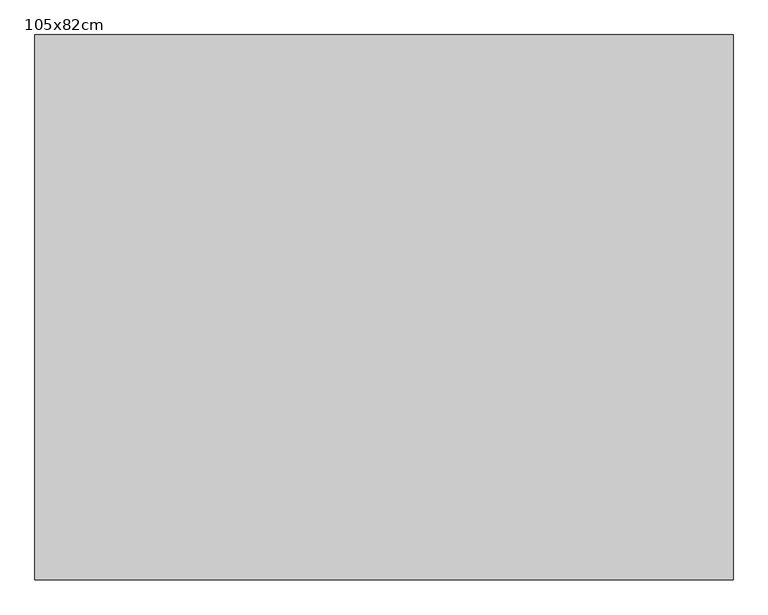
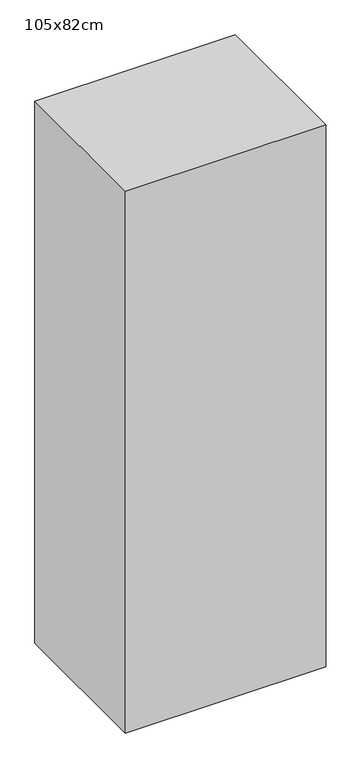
"""IFC4 building model written with IfcOpenShell, lengths in millimetres: column geometry, 混凝土柱-矩形 : 105x82cm."""

from ifc_helpers import new_model, si_unit, origin, origin_with_axes, place, context, project, spatial, polyline, outline, extrude, source, transform, mapped, element, save


def column_105x82cm_b301bd04(model_context):
    return source(origin(), model_context, "Body", "SweptSolid", [
        extrude(outline(polyline([(525.0, 410.0), (525.0, -410.0), (-525.0, -410.0), (-525.0, 410.0), (525.0, 410.0)])), origin_with_axes(), (0.0, 0.0, 1.0), 3000.0),
    ])


if __name__ == "__main__":
    model = new_model("IFC4")
    model_context = context("Model", 3, world=origin())
    ifc_project = project(units=[si_unit("LENGTHUNIT", "METRE", prefix="MILLI")], contexts=[model_context])
    site = spatial("IfcSite", under=ifc_project)
    building = spatial("IfcBuilding", under=site)
    placement = place(None, origin())
    column_105x82cm_shape = column_105x82cm_b301bd04(model_context)
    element("IfcColumn", 1, ObjectType="混凝土柱-矩形 : 105x82cm", at=placement, inside=building, context=model_context, shape_type="MappedRepresentation", body=[
        mapped(column_105x82cm_shape, transform((0.0, 0.0, 0.0), x_axis=(1.0, 0.0, 0.0), y_axis=(0.0, 1.0, 0.0), z_axis=(0.0, 0.0, 1.0))),
    ])
    save(model, "model.ifc")
